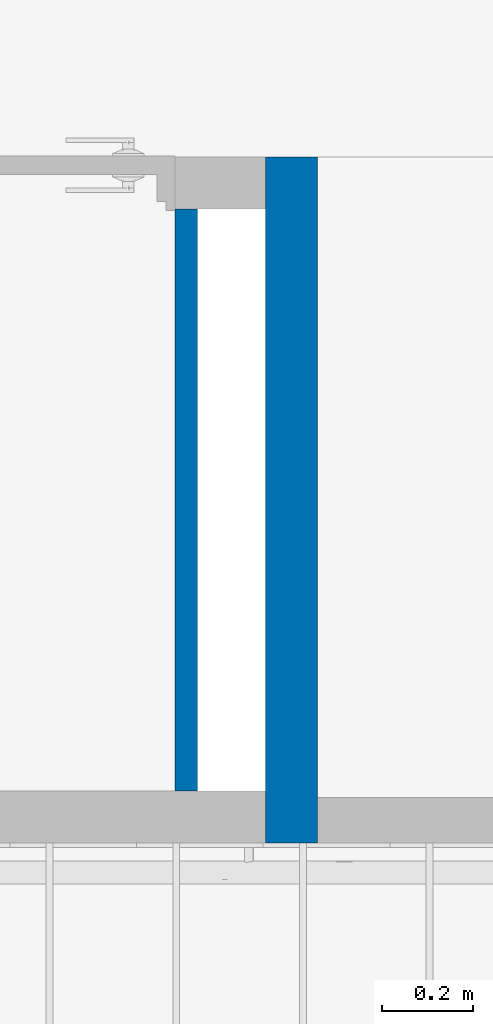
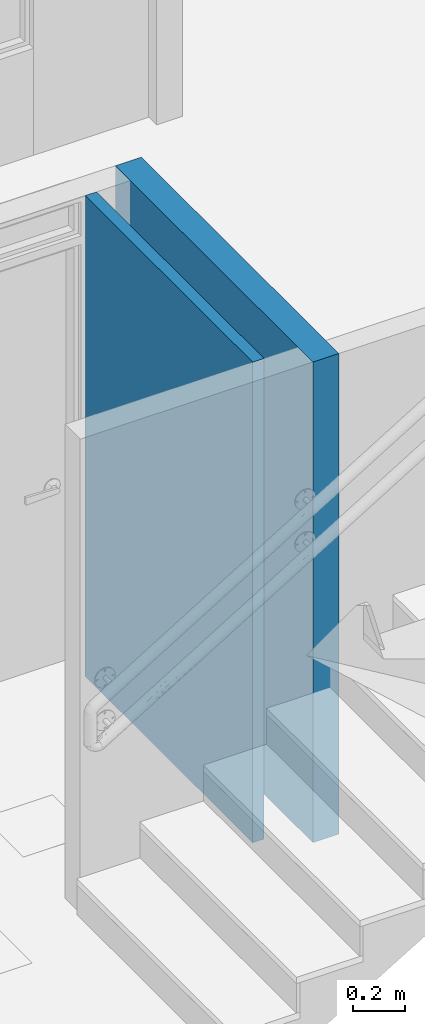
# One storey, part 21 of 48: 2 walls.
"""IFC4 building model written with IfcOpenShell, lengths in metres."""

from ifc_helpers import new_model, entity, si_unit, converted_unit, derived_unit, direction, frame, origin, place, context, subcontext, project, spatial, indexed_curve, outline, extrude, material, type_object, element, save


model = new_model("IFC4")

# Units and contexts
model_context = context("Model", 3, precision=1e-05, world=origin(), true_north=direction((6.123031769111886e-17, 1.0)))
body_context = subcontext(model_context, "Body", "Model", "MODEL_VIEW")
ifc_project = project(units=[si_unit("LENGTHUNIT", "METRE"), si_unit("AREAUNIT", "SQUARE_METRE"), si_unit("VOLUMEUNIT", "CUBIC_METRE"), converted_unit("PLANEANGLEUNIT", "DEGREE", entity("IfcRatioMeasure", 0.017453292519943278), si_unit("PLANEANGLEUNIT", "RADIAN"), dimensions=[0, 0, 0, 0, 0, 0, 0]), si_unit("MASSUNIT", "GRAM", prefix="KILO"), derived_unit("MASSDENSITYUNIT", [(si_unit("MASSUNIT", "GRAM", prefix="KILO"), 1), (si_unit("LENGTHUNIT", "METRE"), -3)]), derived_unit("IONCONCENTRATIONUNIT", [(si_unit("MASSUNIT", "GRAM", prefix="KILO"), 1), (si_unit("LENGTHUNIT", "METRE"), -3)]), derived_unit("MOMENTOFINERTIAUNIT", [(si_unit("LENGTHUNIT", "METRE"), 4)]), si_unit("TIMEUNIT", "SECOND"), si_unit("FREQUENCYUNIT", "HERTZ"), si_unit("THERMODYNAMICTEMPERATUREUNIT", "DEGREE_CELSIUS"), derived_unit("THERMALTRANSMITTANCEUNIT", [(si_unit("MASSUNIT", "GRAM", prefix="KILO"), 1), (si_unit("THERMODYNAMICTEMPERATUREUNIT", "KELVIN"), -1), (si_unit("TIMEUNIT", "SECOND"), -3)]), derived_unit("THERMALCONDUCTANCEUNIT", [(si_unit("MASSUNIT", "GRAM", prefix="KILO"), 1), (si_unit("THERMODYNAMICTEMPERATUREUNIT", "KELVIN"), -1), (si_unit("TIMEUNIT", "SECOND"), -3), (si_unit("LENGTHUNIT", "METRE"), 1)]), derived_unit("VOLUMETRICFLOWRATEUNIT", [(si_unit("LENGTHUNIT", "METRE"), 3), (si_unit("TIMEUNIT", "SECOND"), -1)]), derived_unit("MASSFLOWRATEUNIT", [(si_unit("MASSUNIT", "GRAM", prefix="KILO"), 1), (si_unit("TIMEUNIT", "SECOND"), -1)]), derived_unit("ROTATIONALFREQUENCYUNIT", [(si_unit("TIMEUNIT", "SECOND"), -1)]), si_unit("ELECTRICCURRENTUNIT", "AMPERE"), si_unit("ELECTRICVOLTAGEUNIT", "VOLT"), si_unit("POWERUNIT", "WATT"), si_unit("FORCEUNIT", "NEWTON", prefix="KILO"), si_unit("ILLUMINANCEUNIT", "LUX"), si_unit("LUMINOUSFLUXUNIT", "LUMEN"), si_unit("LUMINOUSINTENSITYUNIT", "CANDELA"), derived_unit("USERDEFINED", [(si_unit("MASSUNIT", "GRAM", prefix="KILO"), -1), (si_unit("LENGTHUNIT", "METRE"), -2), (si_unit("TIMEUNIT", "SECOND"), 3), (si_unit("LUMINOUSFLUXUNIT", "LUMEN"), 1)]), derived_unit("USERDEFINED", [(si_unit("MASSUNIT", "GRAM", prefix="KILO"), 1), (si_unit("TIMEUNIT", "SECOND"), -3), (si_unit("LENGTHUNIT", "METRE"), 3), (si_unit("ELECTRICCURRENTUNIT", "AMPERE"), -2)]), derived_unit("SOUNDPOWERUNIT", [(si_unit("MASSUNIT", "GRAM", prefix="KILO"), 1), (si_unit("TIMEUNIT", "SECOND"), -3), (si_unit("LENGTHUNIT", "METRE"), 2)]), derived_unit("SOUNDPRESSUREUNIT", [(si_unit("MASSUNIT", "GRAM", prefix="KILO"), 1), (si_unit("LENGTHUNIT", "METRE"), -1), (si_unit("TIMEUNIT", "SECOND"), -2)]), derived_unit("LINEARVELOCITYUNIT", [(si_unit("LENGTHUNIT", "METRE"), 1), (si_unit("TIMEUNIT", "SECOND"), -1)]), si_unit("PRESSUREUNIT", "PASCAL"), derived_unit("USERDEFINED", [(si_unit("MASSUNIT", "GRAM", prefix="KILO"), 1), (si_unit("LENGTHUNIT", "METRE"), -2), (si_unit("TIMEUNIT", "SECOND"), -2)]), derived_unit("LINEARFORCEUNIT", [(si_unit("MASSUNIT", "GRAM", prefix="KILO"), 1), (si_unit("TIMEUNIT", "SECOND"), -2)]), derived_unit("PLANARFORCEUNIT", [(si_unit("MASSUNIT", "GRAM", prefix="KILO"), 1), (si_unit("LENGTHUNIT", "METRE"), -1), (si_unit("TIMEUNIT", "SECOND"), -2)]), derived_unit("SPECIFICHEATCAPACITYUNIT", [(si_unit("THERMODYNAMICTEMPERATUREUNIT", "KELVIN"), -1), (si_unit("LENGTHUNIT", "METRE"), 2), (si_unit("TIMEUNIT", "SECOND"), -2)]), derived_unit("HEATINGVALUEUNIT", [(si_unit("LENGTHUNIT", "METRE"), 2), (si_unit("TIMEUNIT", "SECOND"), -2)]), derived_unit("VAPORPERMEABILITYUNIT", [(si_unit("LENGTHUNIT", "METRE"), -1), (si_unit("TIMEUNIT", "SECOND"), 1)]), derived_unit("DYNAMICVISCOSITYUNIT", [(si_unit("MASSUNIT", "GRAM", prefix="KILO"), 1), (si_unit("TIMEUNIT", "SECOND"), -1), (si_unit("LENGTHUNIT", "METRE"), -1)]), derived_unit("THERMALEXPANSIONCOEFFICIENTUNIT", [(si_unit("THERMODYNAMICTEMPERATUREUNIT", "KELVIN"), -1)]), derived_unit("MODULUSOFELASTICITYUNIT", [(si_unit("MASSUNIT", "GRAM", prefix="KILO"), 1), (si_unit("LENGTHUNIT", "METRE"), -1), (si_unit("TIMEUNIT", "SECOND"), -2)]), derived_unit("ISOTHERMALMOISTURECAPACITYUNIT", [(si_unit("LENGTHUNIT", "METRE"), 3), (si_unit("MASSUNIT", "GRAM", prefix="KILO"), -1)]), derived_unit("MOISTUREDIFFUSIVITYUNIT", [(si_unit("TIMEUNIT", "SECOND"), -1), (si_unit("LENGTHUNIT", "METRE"), 2)])], contexts=[model_context])

# Site, building, storey
site_placement = place(None, origin())
site = spatial("IfcSite", under=ifc_project, at=site_placement, Name="Default", CompositionType="ELEMENT")
building_placement = place(site_placement, origin())
building = spatial("IfcBuilding", under=site, at=building_placement, CompositionType="ELEMENT")
storey_placement = place(building_placement, frame((0.0, 0.0, 9.40000000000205)))
storey = spatial("IfcBuildingStorey", under=building, at=storey_placement, Name="Nivel 5", CompositionType="ELEMENT", Elevation=9.40000000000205)

# Walls
ifc_material_1 = material(Name="Ladrillo claro (Aire)", Category="Materials")
wall_type_1 = type_object("IfcWallType", Name="Basic Wall:B2010 - 0.115m - Muro interior en mampostería - Ladrillo", PredefinedType="STANDARD")
wall_1_placement = place(storey_placement, frame((10.6399999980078, -5.225000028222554, 0.0), z_axis=(0.0, 0.0, 1.0), x_axis=(0.0, 1.0, 0.0)))
element("IfcWall", 1, at=wall_1_placement, inside=storey, type_object=wall_type_1, material=ifc_material_1, Name="Basic Wall:B2010 - 0.115m - Muro interior en mampostería - Ladrillo", ObjectType="Basic Wall:B2010 - 0.115m - Muro interior en mampostería - Ladrillo", PredefinedType="NOTDEFINED", context=body_context, shape_type="SweptSolid", body=[
    extrude(outline(indexed_curve([(1.5150000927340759, 0.057500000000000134), (-9.033989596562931e-17, 0.057499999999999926), (9.033989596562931e-17, -0.057499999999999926), (1.5150000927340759, -0.05749999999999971), (1.5150000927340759, 0.057500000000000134)], self_intersect=False)), origin(), (0.0, 0.0, 1.0), 2.2499999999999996),
])
ifc_material_2 = material(Name="0 muro divisorio", Category="Materials")
wall_type_2 = type_object("IfcWallType", Name="Basic Wall:B2010 - 0.05m - MI No estructural- Concreto", PredefinedType="STANDARD")
wall_2_placement = place(storey_placement, frame((10.407500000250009, -5.110000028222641, 0.0), z_axis=(0.0, 0.0, 1.0), x_axis=(0.0, 1.0, 0.0)))
element("IfcWall", 2, at=wall_2_placement, inside=storey, type_object=wall_type_2, material=ifc_material_2, Name="Basic Wall:B2010 - 0.05m - MI No estructural- Concreto", ObjectType="Basic Wall:B2010 - 0.05m - MI No estructural- Concreto", PredefinedType="NOTDEFINED", context=body_context, shape_type="SweptSolid", body=[
    extrude(outline(indexed_curve([(1.2849999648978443, 0.025000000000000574), (-3.7405361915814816e-17, 0.025000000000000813), (3.7405361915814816e-17, -0.025000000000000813), (1.2849999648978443, -0.025000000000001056), (1.2849999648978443, 0.025000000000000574)], self_intersect=False)), origin(), (0.0, 0.0, 1.0), 2.2499999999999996),
])

save(model, "model.ifc")
